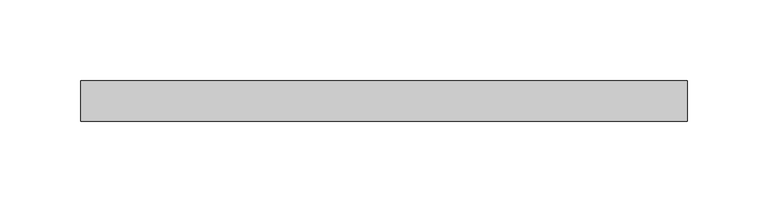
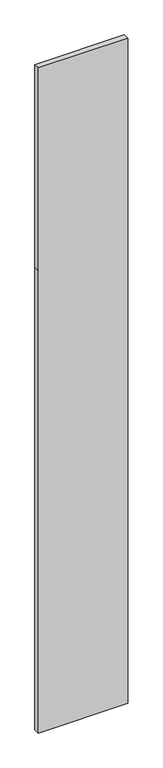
"""IFC4 building model written with IfcOpenShell, lengths in millimetres: plate geometry, Системная панель : С остеклением."""

from ifc_helpers import new_model, si_unit, frame, origin, place, context, project, spatial, polyline, outline, extrude, source, transform, mapped, element, save


def plate_bb26d9c7(model_context):
    return source(origin(), model_context, "Body", "SweptSolid", [
        extrude(outline(polyline([(0.0, -187.5), (0.0, 187.5), (2050.0, 187.5), (2950.0, 187.5), (2950.0, -187.5), (2050.0, -187.5), (0.0, -187.5)])), frame((0.0, -49.5, 0.0), z_axis=(0.0, 1.0, 0.0), x_axis=(0.0, 0.0, 1.0)), (0.0, 0.0, 1.0), 25.0),
    ])


if __name__ == "__main__":
    model = new_model("IFC4")
    model_context = context("Model", 3, world=origin())
    ifc_project = project(units=[si_unit("LENGTHUNIT", "METRE", prefix="MILLI")], contexts=[model_context])
    site = spatial("IfcSite", under=ifc_project)
    building = spatial("IfcBuilding", under=site)
    placement = place(None, origin())
    plate_shape = plate_bb26d9c7(model_context)
    element("IfcPlate", 1, ObjectType="Системная панель : С остеклением", at=placement, inside=building, context=model_context, shape_type="MappedRepresentation", body=[
        mapped(plate_shape, transform((0.0, 0.0, 0.0), x_axis=(1.0, 0.0, 0.0), y_axis=(0.0, 1.0, 0.0), z_axis=(0.0, 0.0, 1.0))),
    ])
    save(model, "model.ifc")
